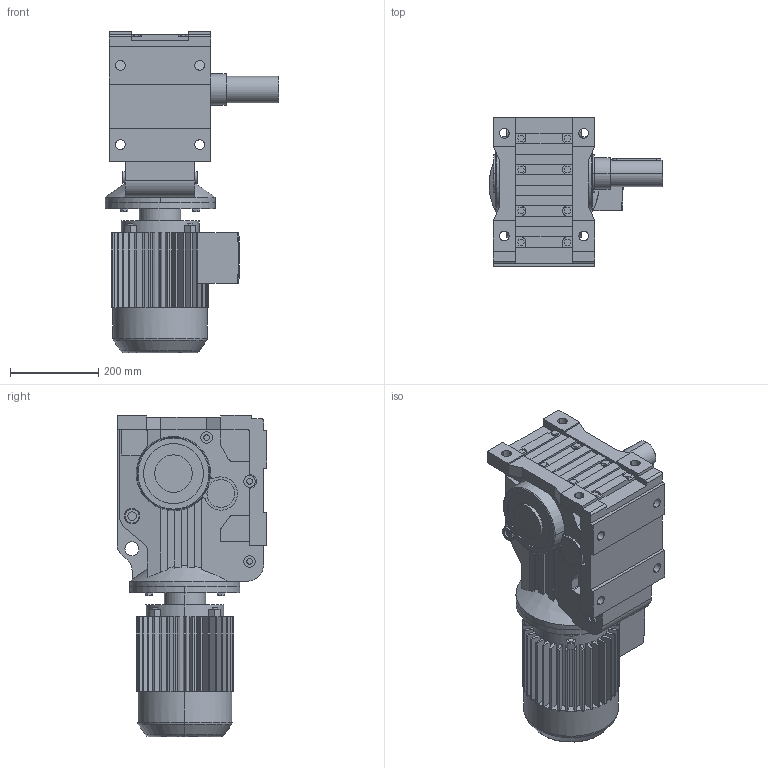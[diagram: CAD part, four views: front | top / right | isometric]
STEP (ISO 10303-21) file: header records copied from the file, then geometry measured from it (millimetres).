
FILE_DESCRIPTION(('Open CASCADE Model'),'2;1');
FILE_NAME('Open CASCADE Shape Model','2021-06-03T15:29:42',('Author'),( 'Open CASCADE'),'Open CASCADE STEP processor 6.3','Open CASCADE 6.3' ,'Unknown');
FILE_SCHEMA(('AUTOMOTIVE_DESIGN_CC2 { 1 2 10303 214 -1 1 5 4 }'));
Length unit declared in the file: millimetre
Products named in the file (4): 1_K87DV112M-A; K37‵157_87.step; 萇儂_250-DV112M-340-420-221-179.step; す瑩妗陑粣K_87.step
Assembly tree (3 placements, depth 2):
  1_K87DV112M-A
    K37‵157_87.step
    萇儂_250-DV112M-340-420-221-179.step
    す瑩妗陑粣K_87.step
Bounding box: 395 x 340 x 729 mm (x, y, z)
Volume: 32395761.4 mm3; surface area: 1449225.6 mm2
Topology: 3 solids, 3 shells, 837 faces, 2208 edges, 1434 vertices
Faces by surface type: plane 584, cylinder 231, cone 14, torus 8
Entity records: 57990 total; most frequent: CARTESIAN_POINT 16035, DIRECTION 7229, ORIENTED_EDGE 4412, PCURVE 4412, DEFINITIONAL_REPRESENTATION 4412, LINE 3941, VECTOR 3941, EDGE_CURVE 2206
